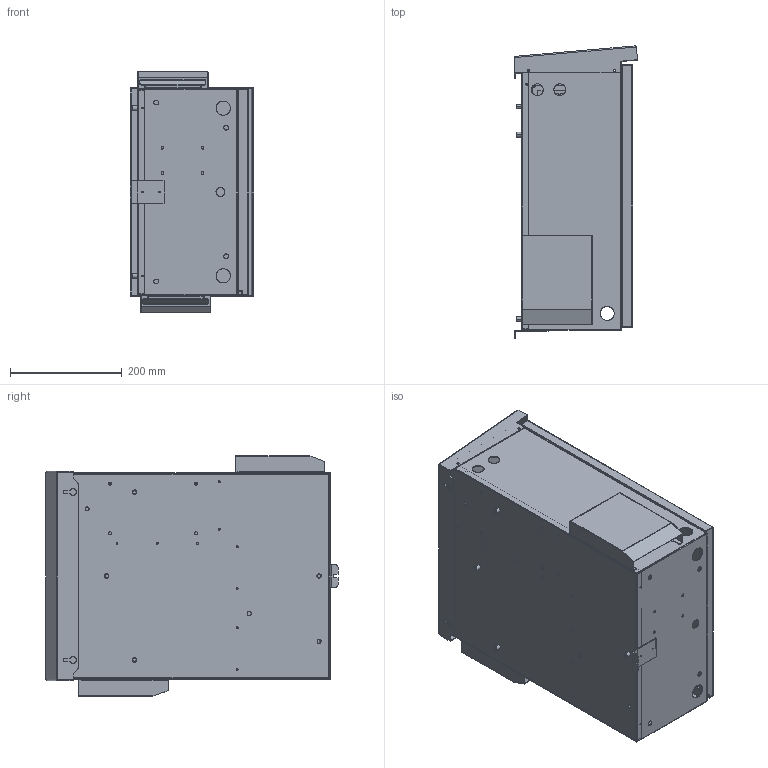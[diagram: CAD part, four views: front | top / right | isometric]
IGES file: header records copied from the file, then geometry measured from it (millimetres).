
Start section: SolidWorks IGES file using analytic representation for surfaces
Global section: file name: G:\EGK\USER\Sabine Krause\Public Group\meine_PDF\LXV294_TD_00000__001.IGS; native system: SolidWorks 2015; preprocessor: SolidWorks 2015; author: skrause; date: 160111.112020; units: millimetre
Bounding box: 220.18 x 522.55 x 430 mm (x, y, z)
Surface area: 2001699.6 mm2 (no closed solid volume)
Topology: 0 solids, 0 shells, 1449 faces, 27490 edges, 27490 vertices
Faces by surface type: revolution 765, bspline 684
